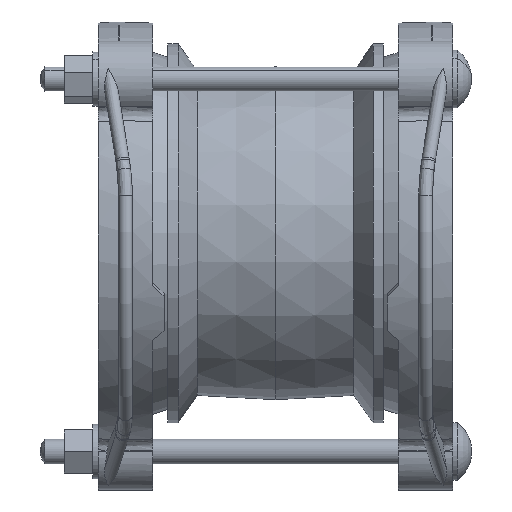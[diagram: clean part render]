
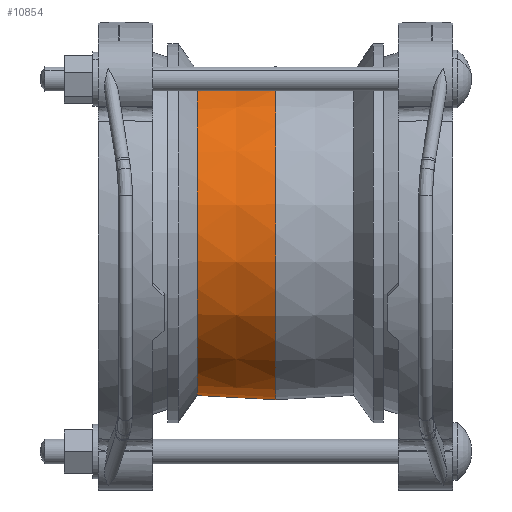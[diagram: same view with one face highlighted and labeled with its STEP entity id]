
A CAD part, left-side view. The second image highlights one B-rep face of the part: STEP entity #10854.
In plain terms, the highlighted conical face has half-angle 3.114 degrees and reference radius 72.468 mm.
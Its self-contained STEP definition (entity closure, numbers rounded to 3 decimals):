
#3896=CARTESIAN_POINT('',(0.,-43.682,0.));
#3897=DIRECTION('',(0.,1.,0.));
#3898=DIRECTION('',(0.,0.,-1.));
#3899=AXIS2_PLACEMENT_3D('',#3896,#3897,#3898);
#3901=CARTESIAN_POINT('',(0.,-78.2,0.));
#3902=DIRECTION('',(0.,-1.,0.));
#3903=DIRECTION('',(0.,0.,1.));
#3904=AXIS2_PLACEMENT_3D('',#3901,#3902,#3903);
#3906=DIRECTION('',(0.,0.999,0.054));
#3907=VECTOR('',#3906,34.569);
#3908=CARTESIAN_POINT('',(0.,-78.2,-73.407));
#3909=LINE('',#3908,#3907);
#3910=DIRECTION('',(0.,0.999,-0.054));
#3911=VECTOR('',#3910,34.569);
#3912=CARTESIAN_POINT('',(0.,-78.2,73.407));
#3913=LINE('',#3912,#3911);
#4432=CARTESIAN_POINT('',(0.,-43.682,-71.529));
#4434=VERTEX_POINT('',#4432);
#4444=CARTESIAN_POINT('',(0.,-43.682,71.529));
#4446=VERTEX_POINT('',#4444);
#4890=CARTESIAN_POINT('',(0.,-78.2,-73.407));
#4891=CARTESIAN_POINT('',(0.,-78.2,73.407));
#4892=VERTEX_POINT('',#4890);
#4893=VERTEX_POINT('',#4891);
#10840=CARTESIAN_POINT('',(0.,-60.941,0.));
#10841=DIRECTION('',(0.,-1.,0.));
#10842=DIRECTION('',(0.,0.,1.));
#10843=AXIS2_PLACEMENT_3D('',#10840,#10841,#10842);
#10844=CONICAL_SURFACE('',#10843,72.468,3.114);
#10846=ORIENTED_EDGE('',*,*,#10845,.T.);
#10848=ORIENTED_EDGE('',*,*,#10847,.T.);
#10849=ORIENTED_EDGE('',*,*,#10835,.T.);
#10851=ORIENTED_EDGE('',*,*,#10850,.F.);
#10852=EDGE_LOOP('',(#10846,#10848,#10849,#10851));
#10853=FACE_OUTER_BOUND('',#10852,.F.);
#10854=ADVANCED_FACE('',(#10853),#10844,.T.);
#3900=CIRCLE('',#3899,71.529);
#3905=CIRCLE('',#3904,73.407);
#10835=EDGE_CURVE('',#4434,#4446,#3900,.T.);
#10845=EDGE_CURVE('',#4893,#4892,#3905,.T.);
#10847=EDGE_CURVE('',#4892,#4434,#3909,.T.);
#10850=EDGE_CURVE('',#4893,#4446,#3913,.T.);
